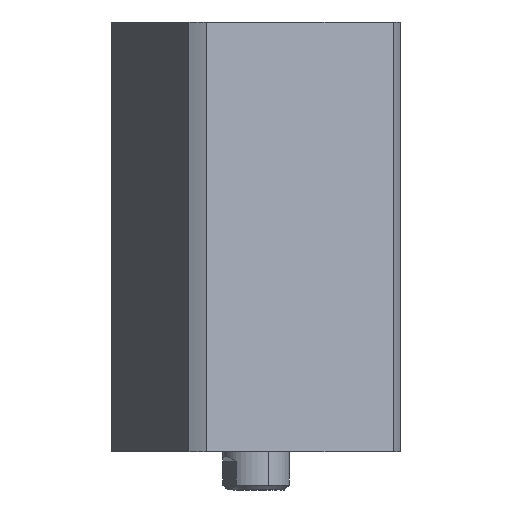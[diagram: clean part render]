
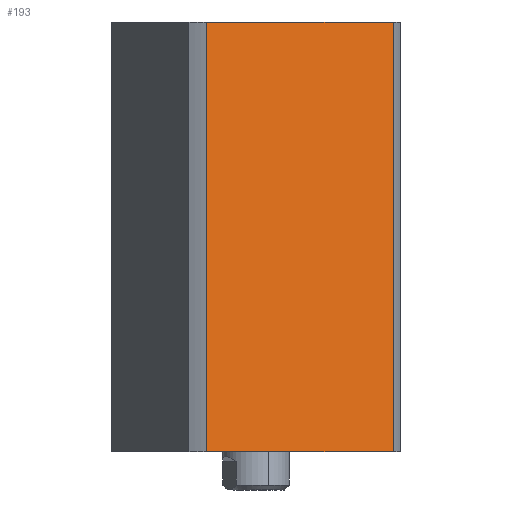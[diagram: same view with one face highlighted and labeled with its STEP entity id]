
A CAD part, left-side view. The second image highlights one B-rep face of the part: STEP entity #193.
In plain terms, the highlighted planar face has unit normal (-0.924, -0.383, 0) as drawn and (0, -1, 0) by its records, which use the part's own axes.
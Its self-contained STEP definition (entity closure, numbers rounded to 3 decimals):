
#48 = ORIENTED_EDGE ( 'NONE', *, *, #2145, .T. ) ;
#193 = ADVANCED_FACE ( 'NONE', ( #1654 ), #1627, .F. ) ;
#261 = LINE ( 'NONE', #1194, #5224 ) ;
#600 = VECTOR ( 'NONE', #6598, 1000. ) ;
#1126 = LINE ( 'NONE', #1189, #4050 ) ;
#1189 = CARTESIAN_POINT ( 'NONE',  ( -21.166, -24., -10. ) ) ;
#1194 = CARTESIAN_POINT ( 'NONE',  ( 21.166, -24., -10. ) ) ;
#1293 = CARTESIAN_POINT ( 'NONE',  ( 21.166, -24., 0. ) ) ;
#1306 = CARTESIAN_POINT ( 'NONE',  ( -21.166, -24., 0. ) ) ;
#1582 = VERTEX_POINT ( 'NONE', #7326 ) ;
#1627 = PLANE ( 'NONE',  #5792 ) ;
#1654 = FACE_OUTER_BOUND ( 'NONE', #2702, .T. ) ;
#1811 = DIRECTION ( 'NONE',  ( 0., 0., -1. ) ) ;
#1934 = CARTESIAN_POINT ( 'NONE',  ( -24., -24., 0. ) ) ;
#2145 = EDGE_CURVE ( 'NONE', #7595, #2961, #7441, .T. ) ;
#2664 = EDGE_CURVE ( 'NONE', #1582, #2774, #2678, .T. ) ;
#2678 = LINE ( 'NONE', #6706, #5821 ) ;
#2702 = EDGE_LOOP ( 'NONE', ( #3109, #48, #4892, #3076 ) ) ;
#2774 = VERTEX_POINT ( 'NONE', #3665 ) ;
#2830 = EDGE_CURVE ( 'NONE', #2774, #2961, #261, .T. ) ;
#2896 = DIRECTION ( 'NONE',  ( 0., 0., 1. ) ) ;
#2961 = VERTEX_POINT ( 'NONE', #1293 ) ;
#3076 = ORIENTED_EDGE ( 'NONE', *, *, #2664, .F. ) ;
#3109 = ORIENTED_EDGE ( 'NONE', *, *, #6894, .F. ) ;
#3665 = CARTESIAN_POINT ( 'NONE',  ( 21.166, -24., 90. ) ) ;
#4050 = VECTOR ( 'NONE', #4921, 1000. ) ;
#4892 = ORIENTED_EDGE ( 'NONE', *, *, #2830, .F. ) ;
#4921 = DIRECTION ( 'NONE',  ( 0., 0., 1. ) ) ;
#5224 = VECTOR ( 'NONE', #1811, 1000. ) ;
#5393 = CARTESIAN_POINT ( 'NONE',  ( -24., -24., 90. ) ) ;
#5792 = AXIS2_PLACEMENT_3D ( 'NONE', #5393, #6645, #2896 ) ;
#5821 = VECTOR ( 'NONE', #6659, 1000. ) ;
#6598 = DIRECTION ( 'NONE',  ( 1., 0., 0. ) ) ;
#6645 = DIRECTION ( 'NONE',  ( 0., 1., 0. ) ) ;
#6659 = DIRECTION ( 'NONE',  ( 1., 0., 0. ) ) ;
#6706 = CARTESIAN_POINT ( 'NONE',  ( -24., -24., 90. ) ) ;
#6894 = EDGE_CURVE ( 'NONE', #7595, #1582, #1126, .T. ) ;
#7326 = CARTESIAN_POINT ( 'NONE',  ( -21.166, -24., 90. ) ) ;
#7441 = LINE ( 'NONE', #1934, #600 ) ;
#7595 = VERTEX_POINT ( 'NONE', #1306 ) ;
